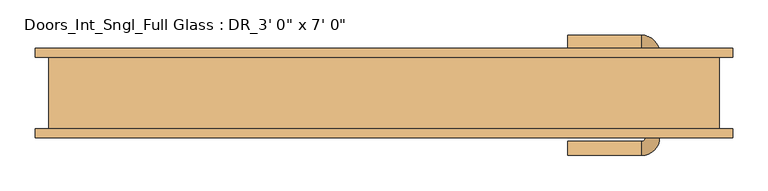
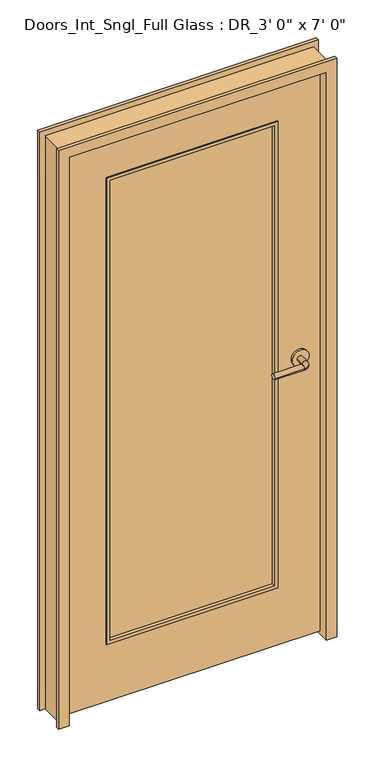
"""IFC4 building model written with IfcOpenShell, lengths in millimetres: door geometry."""

from ifc_helpers import new_model, si_unit, point, frame, frame_2d, origin, place, context, project, spatial, polyline, circle_curve, ellipse_curve, trimmed, segment, composite_curve, outline, extrude, faceted_brep, source, transform, mapped, element, save
from ifc_brep_helpers import plane_surface, cylinder_surface, revolved_surface, advanced_brep


def door_aa9042be(model_context):
    return source(origin(), model_context, "Body", "SolidModel", [
        advanced_brep(
        [(391.0, -33.4, 1066.8), (371.0, -33.4, 1066.8), (391.0, -63.4, 1066.8), (371.0, -63.4, 1066.8), (366.0, -68.4, 1066.8), (366.0, -88.4, 1066.8), (261.0, -88.4, 1066.8), (261.0, -68.4, 1066.8)],
        [
            (0, 1, circle_curve(frame((381.0, -33.4, 1066.8), z_axis=(0.0, 1.0, 0.0), x_axis=(-0.9999999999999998, 0.0, 0.0)), 10.0)),
            (1, 0, circle_curve(frame((381.0, -33.4, 1066.8), z_axis=(0.0, 1.0, 0.0), x_axis=(-0.9999999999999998, 0.0, 0.0)), 10.0)),
            (0, 2),
            (2, 3, circle_curve(frame((381.0, -63.4, 1066.8), z_axis=(0.0, 1.0, 0.0), x_axis=(-0.9999999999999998, 0.0, 0.0)), 10.0)),
            (3, 1),
            (3, 2, circle_curve(frame((381.0, -63.4, 1066.8), z_axis=(0.0, 1.0, 0.0), x_axis=(-0.9999999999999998, 0.0, 0.0)), 10.0)),
            (4, 3, circle_curve(frame((366.0, -63.4, 1066.8), z_axis=(0.0, 0.0, 1.0), x_axis=(0.9999999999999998, 0.0, 0.0)), 5.0)),
            (2, 5, circle_curve(frame((366.0, -63.4, 1066.8), z_axis=(0.0, 0.0, -1.0), x_axis=(0.9999999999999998, 0.0, 0.0)), 25.0)),
            (5, 4, circle_curve(frame((366.0, -78.4, 1066.8), z_axis=(0.9999999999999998, 0.0, 0.0), x_axis=(0.0, 0.9999999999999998, 0.0)), 10.0)),
            (4, 5, circle_curve(frame((366.0, -78.4, 1066.8), z_axis=(0.9999999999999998, 0.0, 0.0), x_axis=(0.0, 0.9999999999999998, 0.0)), 10.0)),
            (6, 7, circle_curve(frame((261.0, -78.4, 1066.8), z_axis=(-1.0, 0.0, 0.0), x_axis=(0.0, 0.9999999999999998, 0.0)), 10.0)),
            (7, 6, circle_curve(frame((261.0, -78.4, 1066.8), z_axis=(-1.0, 0.0, 0.0), x_axis=(0.0, 0.9999999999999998, 0.0)), 10.0)),
            (5, 6),
            (7, 4),
        ],
        [
            plane_surface(frame((381.0, -33.4, 1066.8), z_axis=(0.0, 1.0, 0.0), x_axis=(0.0, 0.0, 1.0))),
            cylinder_surface(frame((381.0, -33.4, 1066.8), z_axis=(0.0, 0.9999999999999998, 0.0), x_axis=(-0.9999999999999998, 0.0, 0.0)), 10.0),
            revolved_surface(trimmed(ellipse_curve(frame((381.0, -63.4, 1066.8), z_axis=(0.0, 0.9999999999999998, 0.0), x_axis=(-0.9999999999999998, 0.0, 0.0)), 10.0, 10.0), [point((391.0, -63.4, 1066.8))], [point((371.0, -63.4, 1066.8))], True, "CARTESIAN"), (366.0, -63.4, 1066.8), (0.0, 0.0, -1.0)),
            revolved_surface(trimmed(ellipse_curve(frame((381.0, -63.4, 1066.8), z_axis=(0.0, 0.9999999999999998, 0.0), x_axis=(-0.9999999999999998, 0.0, 0.0)), 10.0, 10.0), [point((371.0, -63.4, 1066.8))], [point((391.0, -63.4, 1066.8))], True, "CARTESIAN"), (366.0, -63.4, 1066.8), (0.0, 0.0, -1.0)),
            plane_surface(frame((261.0, -78.4, 1066.8), z_axis=(-1.0, 0.0, 0.0), x_axis=(0.0, 0.0, 1.0))),
            cylinder_surface(frame((366.0, -78.4, 1066.8), z_axis=(0.9999999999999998, 0.0, 0.0), x_axis=(0.0, 0.9999999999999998, 0.0)), 10.0),
        ],
        [
            (0, [[1, 2]]),
            (1, [[-1, 3, 4, 5]]),
            (1, [[-2, -5, 6, -3]]),
            (2, [[7, -4, 8, 9]]),
            (3, [[-8, -6, -7, 10]]),
            (4, [[11, 12]]),
            (5, [[-9, 13, -12, 14]]),
            (5, [[-10, -14, -11, -13]]),
        ],
    ),
        extrude(outline(composite_curve([segment(trimmed(circle_curve(frame_2d((1066.8, 383.5)), 30.0), [point((1066.8, 413.5))], [point((1066.8, 353.5))], False, "CARTESIAN"), True, "CONTINUOUS"), segment(trimmed(circle_curve(frame_2d((1066.8, 383.5)), 30.0), [point((1066.8, 353.5))], [point((1066.8, 413.5))], False, "CARTESIAN"), True, "CONTINUOUS")], self_intersect=False)), frame((0.0, -33.4, 0.0), z_axis=(0.0, 1.0, 0.0), x_axis=(0.0, 0.0, 1.0)), (0.0, 0.0, 1.0), 8.0),
        advanced_brep(
        [(391.0, 27.05, 1066.8), (371.0, 27.05, 1066.8), (371.0, 57.05, 1066.8), (391.0, 57.05, 1066.8), (366.0, 62.05, 1066.8), (366.0, 82.05, 1066.8), (261.0, 82.05, 1066.8), (261.0, 62.05, 1066.8)],
        [
            (0, 1, circle_curve(frame((381.0, 27.05, 1066.8), z_axis=(0.0, -1.0, 0.0), x_axis=(-0.9999999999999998, 0.0, 0.0)), 10.0)),
            (1, 0, circle_curve(frame((381.0, 27.05, 1066.8), z_axis=(0.0, -1.0, 0.0), x_axis=(-0.9999999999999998, 0.0, 0.0)), 10.0)),
            (1, 2),
            (2, 3, circle_curve(frame((381.0, 57.05, 1066.8), z_axis=(0.0, -1.0, 0.0), x_axis=(-0.9999999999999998, 0.0, 0.0)), 10.0)),
            (3, 0),
            (3, 2, circle_curve(frame((381.0, 57.05, 1066.8), z_axis=(0.0, -1.0, 0.0), x_axis=(-0.9999999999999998, 0.0, 0.0)), 10.0)),
            (4, 5, circle_curve(frame((366.0, 72.05, 1066.8), z_axis=(0.9999999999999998, 0.0, 0.0), x_axis=(0.0, -0.9999999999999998, 0.0)), 10.0)),
            (5, 3, circle_curve(frame((366.0, 57.05, 1066.8), z_axis=(0.0, 0.0, -1.0), x_axis=(0.9999999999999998, 0.0, 0.0)), 25.0)),
            (2, 4, circle_curve(frame((366.0, 57.05, 1066.8), z_axis=(0.0, 0.0, 1.0), x_axis=(0.9999999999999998, 0.0, 0.0)), 5.0)),
            (5, 4, circle_curve(frame((366.0, 72.05, 1066.8), z_axis=(0.9999999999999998, 0.0, 0.0), x_axis=(0.0, -0.9999999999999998, 0.0)), 10.0)),
            (6, 7, circle_curve(frame((261.0, 72.05, 1066.8), z_axis=(-1.0, 0.0, 0.0), x_axis=(0.0, -0.9999999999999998, 0.0)), 10.0)),
            (7, 6, circle_curve(frame((261.0, 72.05, 1066.8), z_axis=(-1.0, 0.0, 0.0), x_axis=(0.0, -0.9999999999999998, 0.0)), 10.0)),
            (4, 7),
            (6, 5),
        ],
        [
            plane_surface(frame((381.0, 27.05, 1066.8), z_axis=(0.0, -1.0, 0.0), x_axis=(0.0, 0.0, 1.0))),
            cylinder_surface(frame((381.0, 27.05, 1066.8), z_axis=(0.0, -0.9999999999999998, 0.0), x_axis=(-0.9999999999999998, 0.0, 0.0)), 10.0),
            revolved_surface(trimmed(ellipse_curve(frame((381.0, 57.05, 1066.8), z_axis=(0.0, 0.9999999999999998, 0.0), x_axis=(-0.9999999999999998, 0.0, 0.0)), 10.0, 10.0), [point((391.0, 57.05, 1066.8))], [point((371.0, 57.05, 1066.8))], True, "CARTESIAN"), (366.0, 57.05, 1066.8), (0.0, 0.0, -1.0)),
            revolved_surface(trimmed(ellipse_curve(frame((381.0, 57.05, 1066.8), z_axis=(0.0, 0.9999999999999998, 0.0), x_axis=(-0.9999999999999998, 0.0, 0.0)), 10.0, 10.0), [point((371.0, 57.05, 1066.8))], [point((391.0, 57.05, 1066.8))], True, "CARTESIAN"), (366.0, 57.05, 1066.8), (0.0, 0.0, -1.0)),
            plane_surface(frame((261.0, 72.05, 1066.8), z_axis=(-1.0, 0.0, 0.0), x_axis=(0.0, 0.0, 1.0))),
            cylinder_surface(frame((366.0, 72.05, 1066.8), z_axis=(0.9999999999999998, 0.0, 0.0), x_axis=(0.0, -0.9999999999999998, 0.0)), 10.0),
        ],
        [
            (0, [[1, 2]]),
            (1, [[3, 4, 5, -2]]),
            (1, [[-5, 6, -3, -1]]),
            (2, [[7, 8, -4, 9]]),
            (3, [[10, -9, -6, -8]]),
            (4, [[11, 12]]),
            (5, [[13, -11, 14, -7]]),
            (5, [[-14, -12, -13, -10]]),
        ],
    ),
        extrude(outline(composite_curve([segment(trimmed(circle_curve(frame_2d((1066.8, 383.5)), 30.0), [point((1066.8, 413.5))], [point((1066.8, 353.5))], False, "CARTESIAN"), True, "CONTINUOUS"), segment(trimmed(circle_curve(frame_2d((1066.8, 383.5)), 30.0), [point((1066.8, 353.5))], [point((1066.8, 413.5))], False, "CARTESIAN"), True, "CONTINUOUS")], self_intersect=False)), frame((0.0, 19.05, 0.0), z_axis=(0.0, 1.0, 0.0), x_axis=(0.0, 0.0, 1.0)), (0.0, 0.0, 1.0), 8.0),
        extrude(outline(polyline([(292.1, 9.525), (292.1, -15.875), (-292.1, -15.875), (-292.1, 9.525), (292.1, 9.525)])), frame((0.0, 0.0, 241.3), z_axis=(0.0, 0.0, 1.0), x_axis=(1.0, 0.0, 0.0)), (0.0, 0.0, 1.0), 1727.2),
        extrude(outline(polyline([(228.6, -304.8), (228.6, 304.8), (1981.2, 304.8), (1981.2, -304.8), (228.6, -304.8)]), holes=[polyline([(241.3, -292.1), (1968.5, -292.1), (1968.5, 292.1), (241.3, 292.1), (241.3, -292.1)])]), frame((0.0, -28.575, 0.0), z_axis=(0.0, 1.0, 0.0), x_axis=(0.0, 0.0, 1.0)), (0.0, 0.0, 1.0), 50.8),
        extrude(outline(polyline([(2133.6, 457.2), (2133.6, -457.2), (12.7, -457.2), (12.7, 457.2), (2133.6, 457.2)]), holes=[polyline([(228.6, -304.8), (1981.2, -304.8), (1981.2, 304.8), (228.6, 304.8), (228.6, -304.8)])]), frame((0.0, -25.4, 0.0), z_axis=(0.0, 1.0, 0.0), x_axis=(0.0, 0.0, 1.0)), (0.0, 0.0, 1.0), 44.45),
        faceted_brep([(-457.2, 63.5, 0.0), (-457.2, -63.5, 0.0), (-495.3, -63.5, 0.0), (-495.3, -50.8, 0.0), (-476.25, -50.8, 0.0), (-476.25, 50.8, 0.0), (-495.3, 50.8, 0.0), (-495.3, 63.5, 0.0), (-495.3, 63.5, 2171.7), (495.3, 63.5, 2171.7), (495.3, 63.5, 0.0), (457.2, 63.5, 0.0), (457.2, 63.5, 2133.6), (-457.2, 63.5, 2133.6), (-495.3, 50.8, 2171.7), (-476.25, 50.8, 2152.65), (476.25, 50.8, 2152.65), (476.25, 50.8, 0.0), (495.3, 50.8, 0.0), (495.3, 50.8, 2171.7), (-476.25, -50.8, 2152.65), (-495.3, -50.8, 2171.7), (495.3, -50.8, 2171.7), (495.3, -50.8, 0.0), (476.25, -50.8, 0.0), (476.25, -50.8, 2152.65), (-495.3, -63.5, 2171.7), (-457.2, -63.5, 2133.6), (457.2, -63.5, 2133.6), (457.2, -63.5, 0.0), (495.3, -63.5, 0.0), (495.3, -63.5, 2171.7)], [[[0, 1, 2, 3, 4, 5, 6, 7]], [[7, 8, 9, 10, 11, 12, 13, 0]], [[6, 14, 8, 7]], [[5, 15, 16, 17, 18, 19, 14, 6]], [[4, 20, 15, 5]], [[3, 21, 22, 23, 24, 25, 20, 4]], [[2, 26, 21, 3]], [[1, 27, 28, 29, 30, 31, 26, 2]], [[0, 13, 27, 1]], [[12, 11, 29, 28]], [[11, 10, 18, 17, 24, 23, 30, 29]], [[19, 18, 10, 9]], [[31, 30, 23, 22]], [[25, 24, 17, 16]], [[20, 25, 16, 15]], [[13, 12, 28, 27]], [[14, 19, 9, 8]], [[26, 31, 22, 21]]]),
    ])


if __name__ == "__main__":
    model = new_model("IFC4")
    model_context = context("Model", 3, world=origin())
    ifc_project = project(units=[si_unit("LENGTHUNIT", "METRE", prefix="MILLI")], contexts=[model_context])
    site = spatial("IfcSite", under=ifc_project)
    building = spatial("IfcBuilding", under=site)
    placement = place(None, origin())
    door_shape = door_aa9042be(model_context)
    element("IfcDoor", 1, ObjectType="Doors_Int_Sngl_Full Glass : DR_3' 0\" x 7' 0\"", at=placement, inside=building, context=model_context, shape_type="MappedRepresentation", body=[
        mapped(door_shape, transform((0.0, 0.0, 0.0), x_axis=(1.0, 0.0, 0.0), y_axis=(0.0, 1.0, 0.0), z_axis=(0.0, 0.0, 1.0))),
    ])
    save(model, "model.ifc")
